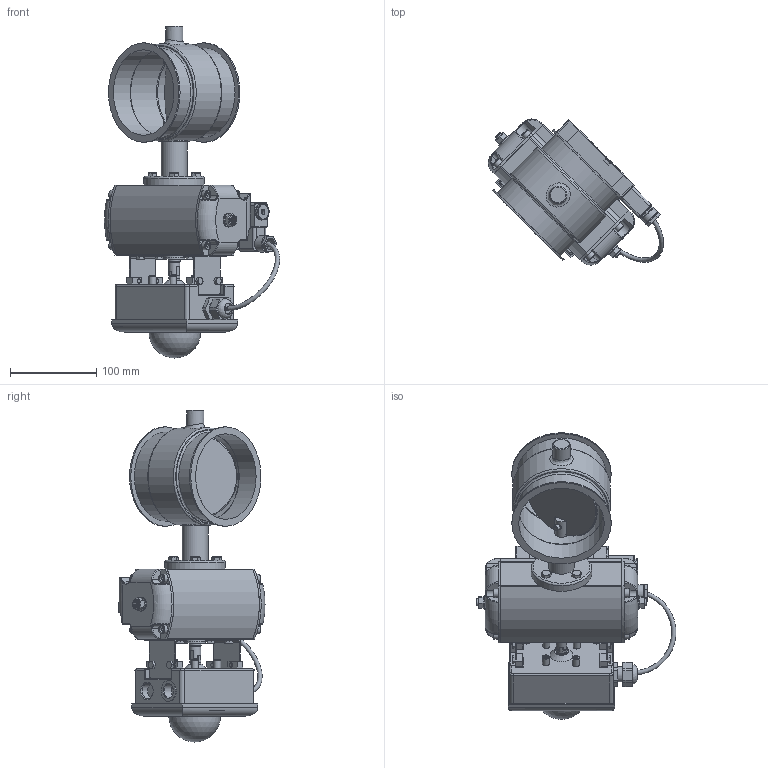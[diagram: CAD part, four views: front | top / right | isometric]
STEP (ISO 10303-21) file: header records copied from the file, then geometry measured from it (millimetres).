
FILE_DESCRIPTION((''),'2;1');
FILE_NAME('U:\Wolfgang\Marcel-3D\fertig\Kapitel 8\1021212.stp','2011-05-03T15:05:56',('TK1'),(''),'Autodesk Inventor 2010','Autodesk Inventor 2010','');
FILE_SCHEMA(('AUTOMOTIVE_DESIGN { 1 0 10303 214 1 1 1 1 }'));
Length unit declared in the file: millimetre
Products named in the file (40): 1021212; BuchseD15 70-50; 1021210-1; Bolzen D15; Scheibe100b; DIN 6912 M6 x 16; DIN EN ISO 4018 M6x25; Pneumatischer SchwenkantriebS63D-2; Body; roter Verschluss; A1 Schwenkantrieb; Body S063D; End Cap L; End Cap R; DIN EN ISO 4762 M6 x 12; DIN EN ISO 4018 M5x10; DIN 916 M8  x  40; DIN 555 - ersetzt durch DIN EN 24034 M8; DIN 125-1 A A 8,4; DIN 125-1 A A 13; A1 Ventileinheit-2; Ventil1; Ventil1a; Ventil1b; Ventil1a_1; Ventil1b_1; ISO 7046-1 Z M4 x 25 - 4.8 - Z; Ventil1c; Ventil1d; ISO 7047 (H) M3x8 - 4.8 - H; DIN 7984 M6 x 40; DIN EN ISO 7042 M8; Ventil1e; Ventil1f; DIN EN 24766 M6 x 30; DIN 439-2 - ersetzt durch DIN EN 24035/28675 M6; entlüftung; Halterung; Deckel2; Schlauch 1
Assembly tree (78 placements, depth 4):
  1021212
    BuchseD15 70-50
    1021210-1
    Bolzen D15  x2
    Scheibe100b
    DIN 6912 M6 x 16  x2
    DIN EN ISO 4018 M6x25  x4
    Pneumatischer SchwenkantriebS63D-2
      Body
      roter Verschluss
      A1 Schwenkantrieb
        Body S063D
        End Cap L
        End Cap R
        DIN EN ISO 4762 M6 x 12  x8
        DIN EN ISO 4018 M5x10  x4
        DIN 916 M8  x  40  x2
        DIN 555 - ersetzt durch DIN EN 24034 M8  x2
        DIN 125-1 A A 8,4  x2
        DIN 125-1 A A 13  x2
      A1 Ventileinheit-2
        Ventil1
        Ventil1a
        Ventil1b
        Ventil1a_1
        Ventil1b_1
        ISO 7046-1 Z M4 x 25 - 4.8 - Z  x8
        Ventil1c
        Ventil1d
        ISO 7047 (H) M3x8 - 4.8 - H
        DIN 7984 M6 x 40  x2
        DIN EN ISO 7042 M8  x2
        DIN 125-1 A A 8,4  x2
        Ventil1e  x2
        Ventil1f  x2
        DIN EN 24766 M6 x 30  x2
        DIN 439-2 - ersetzt durch DIN EN 24035/28675 M6  x2
        entlüftung
      Halterung  x2
      DIN EN ISO 4018 M5x10  x4
      Deckel2
      Schlauch 1
Bounding box: 202.66 x 168.87 x 384 mm (x, y, z)
Volume: 1682099.9 mm3; surface area: 410013.3 mm2
Topology: 78 solids, 79 shells, 1697 faces, 4000 edges, 2539 vertices
Faces by surface type: plane 826, cylinder 334, cone 302, bspline 150, torus 77, sphere 8
Full cylindrical faces by diameter (mm): 2.5 x1, 3 x3, 3.242 x8, 3.571 x8, 4 x8, 4.917 x4, 5 x10, 5.5 x1, 6 x24, 6.647 x1, 8 x6, 8.4 x12, 10 x14, 11.63 x6, 11.9 x2, 12 x1, 12.5 x1, 13 x7, 14 x3, 15 x7, 15.5 x1, 15.918 x1, 16 x5, 16.918 x1, 17 x3, 17.79 x2, 18 x3, 19 x2, 20 x1, 22 x1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
Entity records: 31126 total; most frequent: CARTESIAN_POINT 8605, DIRECTION 4525, ORIENTED_EDGE 3936, EDGE_CURVE 1968, AXIS2_PLACEMENT_3D 1796, EDGE_LOOP 1400, VERTEX_POINT 1387, FACE_OUTER_BOUND 977
